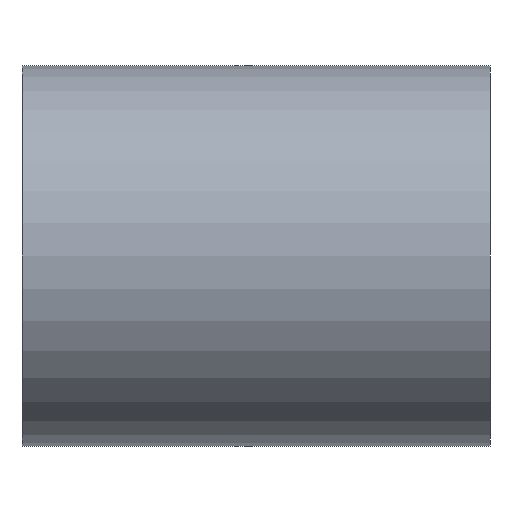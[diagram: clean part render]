
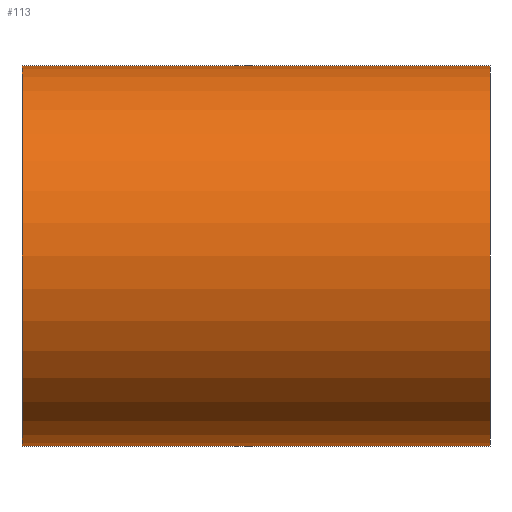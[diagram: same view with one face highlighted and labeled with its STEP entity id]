
A CAD part, left-side view. The second image highlights one B-rep face of the part: STEP entity #113.
In plain terms, the highlighted cylindrical face has radius 13 mm (diameter 26 mm), a partial arc.
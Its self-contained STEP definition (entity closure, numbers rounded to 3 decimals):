
#5 = EDGE_CURVE ( 'NONE', #110, #157, #37, .T. ) ;
#17 = CARTESIAN_POINT ( 'NONE',  ( 0., 32., 13. ) ) ;
#29 = FACE_OUTER_BOUND ( 'NONE', #196, .T. ) ;
#30 = CARTESIAN_POINT ( 'NONE',  ( 0., 0., -13. ) ) ;
#32 = LINE ( 'NONE', #54, #58 ) ;
#33 = CARTESIAN_POINT ( 'NONE',  ( 0., 0., 13. ) ) ;
#37 = LINE ( 'NONE', #172, #57 ) ;
#38 = AXIS2_PLACEMENT_3D ( 'NONE', #66, #154, #50 ) ;
#41 = ORIENTED_EDGE ( 'NONE', *, *, #93, .T. ) ;
#45 = VERTEX_POINT ( 'NONE', #30 ) ;
#50 = DIRECTION ( 'NONE',  ( 0., 0., 1. ) ) ;
#54 = CARTESIAN_POINT ( 'NONE',  ( 0., 32., -13. ) ) ;
#57 = VECTOR ( 'NONE', #206, 1000. ) ;
#58 = VECTOR ( 'NONE', #131, 1000. ) ;
#65 = ORIENTED_EDGE ( 'NONE', *, *, #89, .T. ) ;
#66 = CARTESIAN_POINT ( 'NONE',  ( 0., 0., 0. ) ) ;
#69 = VERTEX_POINT ( 'NONE', #94 ) ;
#70 = DIRECTION ( 'NONE',  ( 0., 1., 0. ) ) ;
#85 = CARTESIAN_POINT ( 'NONE',  ( 0., 32., 0. ) ) ;
#87 = CIRCLE ( 'NONE', #180, 13. ) ;
#89 = EDGE_CURVE ( 'NONE', #69, #45, #32, .T. ) ;
#93 = EDGE_CURVE ( 'NONE', #45, #157, #114, .T. ) ;
#94 = CARTESIAN_POINT ( 'NONE',  ( 0., 32., -13. ) ) ;
#103 = ORIENTED_EDGE ( 'NONE', *, *, #5, .F. ) ;
#110 = VERTEX_POINT ( 'NONE', #17 ) ;
#113 = ADVANCED_FACE ( 'NONE', ( #29 ), #203, .T. ) ;
#114 = CIRCLE ( 'NONE', #38, 13. ) ;
#122 = DIRECTION ( 'NONE',  ( 0., 0., 1. ) ) ;
#131 = DIRECTION ( 'NONE',  ( 0., -1., 0. ) ) ;
#132 = DIRECTION ( 'NONE',  ( 0., 0., -1. ) ) ;
#135 = CARTESIAN_POINT ( 'NONE',  ( 0., 32., 0. ) ) ;
#149 = DIRECTION ( 'NONE',  ( 0., -1., 0. ) ) ;
#151 = EDGE_CURVE ( 'NONE', #69, #110, #87, .T. ) ;
#154 = DIRECTION ( 'NONE',  ( 0., 1., 0. ) ) ;
#157 = VERTEX_POINT ( 'NONE', #33 ) ;
#164 = AXIS2_PLACEMENT_3D ( 'NONE', #135, #149, #132 ) ;
#166 = ORIENTED_EDGE ( 'NONE', *, *, #151, .F. ) ;
#172 = CARTESIAN_POINT ( 'NONE',  ( 0., 32., 13. ) ) ;
#180 = AXIS2_PLACEMENT_3D ( 'NONE', #85, #70, #122 ) ;
#196 = EDGE_LOOP ( 'NONE', ( #103, #166, #65, #41 ) ) ;
#203 = CYLINDRICAL_SURFACE ( 'NONE', #164, 13. ) ;
#206 = DIRECTION ( 'NONE',  ( 0., -1., 0. ) ) ;
